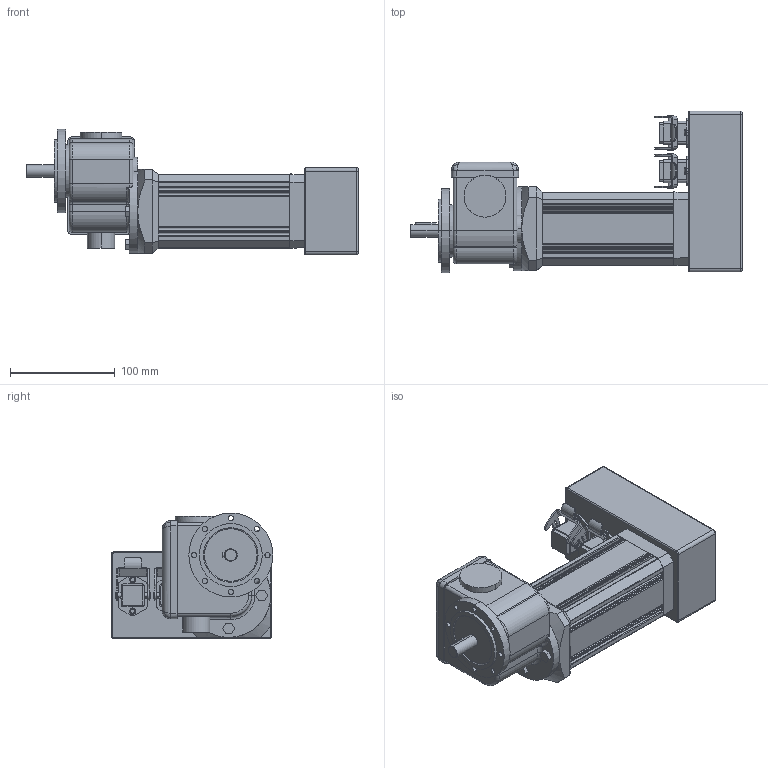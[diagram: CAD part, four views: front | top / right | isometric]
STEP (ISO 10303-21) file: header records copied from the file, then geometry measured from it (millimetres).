
FILE_DESCRIPTION(('OneSpaceDesigner STEP Export'),'2;1');
FILE_NAME('UECG323TH_GF239-10_Q.stp','2008-06-25T15:25:35',(''),(''),'OneSpace Designer STEP processor (Jan. 2003) for AP214(CD)(Solid Model)','OneSpace Designer 12.01D 09-Jul-2004 (C) CoCreate Software GmbH','');
FILE_SCHEMA(('AUTOMOTIVE_DESIGN_CC2 {1 2 10303 214 -1 1 5 1}'));
Length unit declared in the file: millimetre
Products named in the file (2): UECG323TH_GF239-10_Q
Assembly tree (1 placements, depth 2):
  UECG323TH_GF239-10_Q
    UECG323TH_GF239-10_Q
Bounding box: 316.5 x 154 x 120 mm (x, y, z)
Volume: 2028986.3 mm3; surface area: 163255.2 mm2
Topology: 1 solids, 1 shells, 601 faces, 1593 edges, 1022 vertices
Faces by surface type: cylinder 293, plane 251, torus 38, bspline 12, cone 6, sphere 1
Entity records: 21391 total; most frequent: CARTESIAN_POINT 6978, ORIENTED_EDGE 3184, DIRECTION 2791, EDGE_CURVE 1592, VERTEX_POINT 1022, AXIS2_PLACEMENT_3D 975, VECTOR 841, LINE 841
